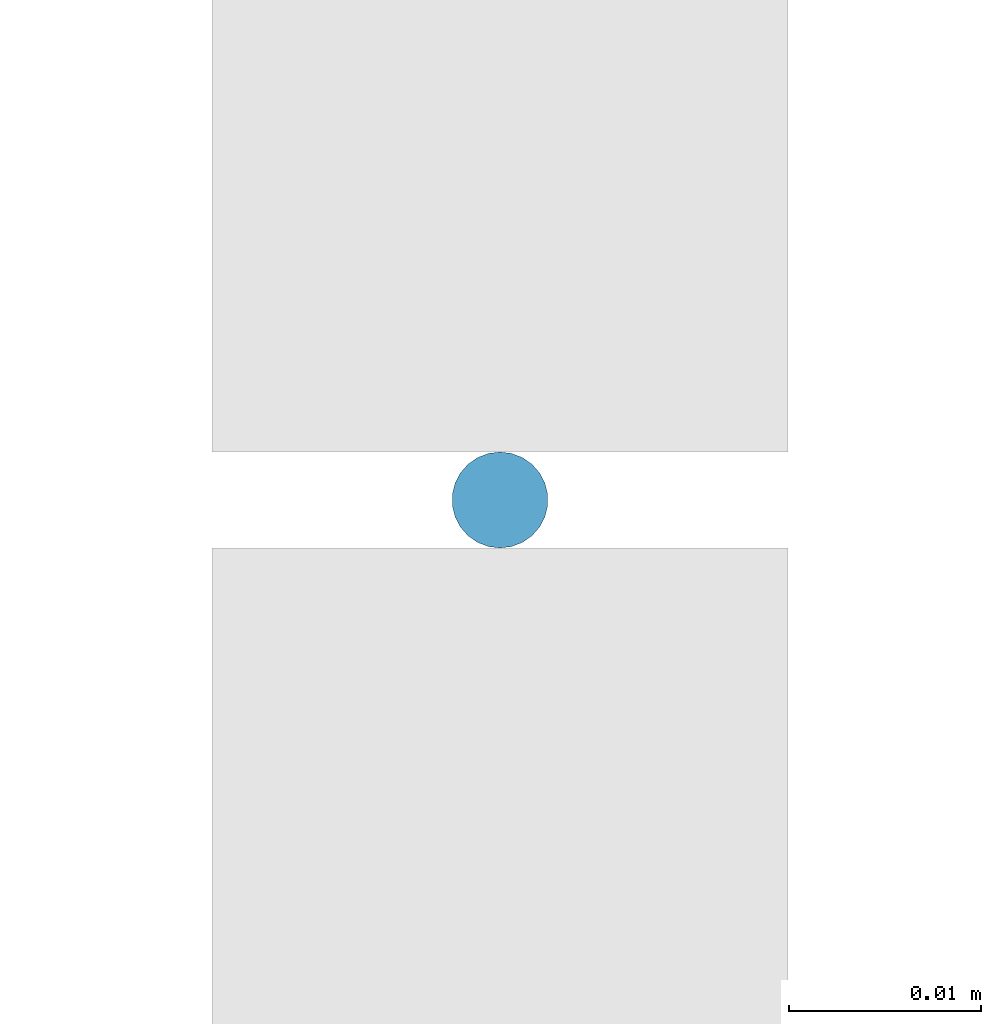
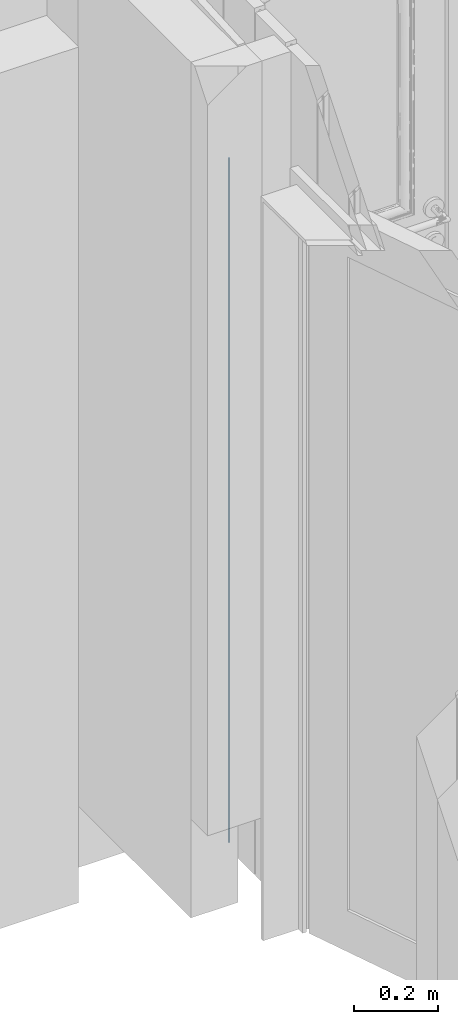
# One storey, part 47 of 81: 1 member, 1 element without a shape of its own.
"""IFC2X3 building model written with IfcOpenShell, lengths in metres."""

from ifc_helpers import new_model, entity, si_unit, converted_unit, derived_unit, direction, frame, frame_2d, origin, place, context, subcontext, project, spatial, circle, extrude, source, transform, mapped, material, type_object, type_shapes, element, aggregate, save


model = new_model("IFC2X3")

# Units and contexts
model_context = context("Model", 3, precision=1e-05, world=origin(), true_north=direction((6.12303176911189e-17, 1.0)))
body_context = subcontext(model_context, "Body", "Model", "MODEL_VIEW")
ifc_project = project(units=[si_unit("LENGTHUNIT", "METRE"), si_unit("AREAUNIT", "SQUARE_METRE"), si_unit("VOLUMEUNIT", "CUBIC_METRE"), converted_unit("PLANEANGLEUNIT", "DEGREE", entity("IfcRatioMeasure", 0.0174532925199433), si_unit("PLANEANGLEUNIT", "RADIAN"), dimensions=[0, 0, 0, 0, 0, 0, 0]), si_unit("MASSUNIT", "GRAM", prefix="KILO"), derived_unit("MASSDENSITYUNIT", [(si_unit("MASSUNIT", "GRAM", prefix="KILO"), 1), (si_unit("LENGTHUNIT", "METRE"), -3)]), derived_unit("MOMENTOFINERTIAUNIT", [(si_unit("LENGTHUNIT", "METRE"), 4)]), si_unit("TIMEUNIT", "SECOND"), si_unit("FREQUENCYUNIT", "HERTZ"), si_unit("THERMODYNAMICTEMPERATUREUNIT", "DEGREE_CELSIUS"), derived_unit("THERMALTRANSMITTANCEUNIT", [(si_unit("MASSUNIT", "GRAM", prefix="KILO"), 1), (si_unit("THERMODYNAMICTEMPERATUREUNIT", "KELVIN"), -1), (si_unit("TIMEUNIT", "SECOND"), -3)]), derived_unit("VOLUMETRICFLOWRATEUNIT", [(si_unit("LENGTHUNIT", "METRE"), 3), (si_unit("TIMEUNIT", "SECOND"), -1)]), si_unit("ELECTRICCURRENTUNIT", "AMPERE"), si_unit("ELECTRICVOLTAGEUNIT", "VOLT"), si_unit("POWERUNIT", "WATT"), si_unit("FORCEUNIT", "NEWTON", prefix="KILO"), si_unit("ILLUMINANCEUNIT", "LUX"), si_unit("LUMINOUSFLUXUNIT", "LUMEN"), si_unit("LUMINOUSINTENSITYUNIT", "CANDELA"), derived_unit("USERDEFINED", [(si_unit("MASSUNIT", "GRAM", prefix="KILO"), -1), (si_unit("LENGTHUNIT", "METRE"), -2), (si_unit("TIMEUNIT", "SECOND"), 3), (si_unit("LUMINOUSFLUXUNIT", "LUMEN"), 1)]), derived_unit("LINEARVELOCITYUNIT", [(si_unit("LENGTHUNIT", "METRE"), 1), (si_unit("TIMEUNIT", "SECOND"), -1)]), si_unit("PRESSUREUNIT", "PASCAL"), derived_unit("USERDEFINED", [(si_unit("LENGTHUNIT", "METRE"), -2), (si_unit("MASSUNIT", "GRAM", prefix="KILO"), 1), (si_unit("TIMEUNIT", "SECOND"), -2)]), derived_unit("LINEARFORCEUNIT", [(si_unit("MASSUNIT", "GRAM", prefix="KILO"), 1), (si_unit("LENGTHUNIT", "METRE"), 1), (si_unit("TIMEUNIT", "SECOND"), -2), (si_unit("LENGTHUNIT", "METRE"), -1)]), derived_unit("PLANARFORCEUNIT", [(si_unit("MASSUNIT", "GRAM", prefix="KILO"), 1), (si_unit("LENGTHUNIT", "METRE"), 1), (si_unit("TIMEUNIT", "SECOND"), -2), (si_unit("LENGTHUNIT", "METRE"), -2)])], contexts=[model_context])

# Site, building, storey
site_placement = place(None, origin())
site = spatial("IfcSite", under=ifc_project, at=site_placement, Name="Surface", CompositionType="ELEMENT")
building_placement = place(site_placement, origin())
building = spatial("IfcBuilding", under=site, at=building_placement, CompositionType="ELEMENT")
storey_placement = place(building_placement, origin())
storey = spatial("IfcBuildingStorey", under=building, at=storey_placement, Name="01 RDC", CompositionType="ELEMENT", Elevation=-1.94916083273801e-14)

# Curtain wall, member
curtain_wall_type = type_object("IfcCurtainWallType", Name="Mur-rideau:1m x 2m", PredefinedType="NOTDEFINED")
curtain_wall_placement = place(storey_placement, origin())
curtain_wall = element("IfcCurtainWall", 1, at=curtain_wall_placement, inside=storey, type_object=curtain_wall_type, Name="Mur-rideau:1m x 2m", ObjectType="Mur-rideau:1m x 2m")
ifc_material = material(Name="Aluminium - Vert")
member_type = type_object("IfcMemberType", Name="Meneau circulaire:R-30 mm", PredefinedType="MULLION", material=ifc_material)
shared_shape = source(origin(), body_context, "Body", "SweptSolid", [
    extrude(circle(Radius=0.0025, at=frame_2d((-1.30499213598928e-32, 4.03886143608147e-18), x_axis=(1.0, 0.0))), frame((0.0, 0.0, -2.0), z_axis=(0.0, 0.0, 1.0), x_axis=(-1.0, 0.0, 0.0)), (0.0, 0.0, 1.0), 2.0),
])
type_shapes(member_type, [shared_shape])
member_placement = place(storey_placement, frame((8.02156158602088, -4.14346095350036, 0.0), z_axis=(0.0, 0.0, -1.0), x_axis=(0.0, -1.0, 0.0)))
member = element("IfcMember", 2, at=member_placement, type_object=member_type, material=ifc_material, Name="Meneau circulaire:R-30 mm", ObjectType="Meneau circulaire:R-30 mm", context=body_context, shape_type="MappedRepresentation", body=[
    mapped(shared_shape, transform((0.0, 0.0, 0.0), scale=1.0)),
])
aggregate(curtain_wall, [member])

save(model, "model.ifc")
